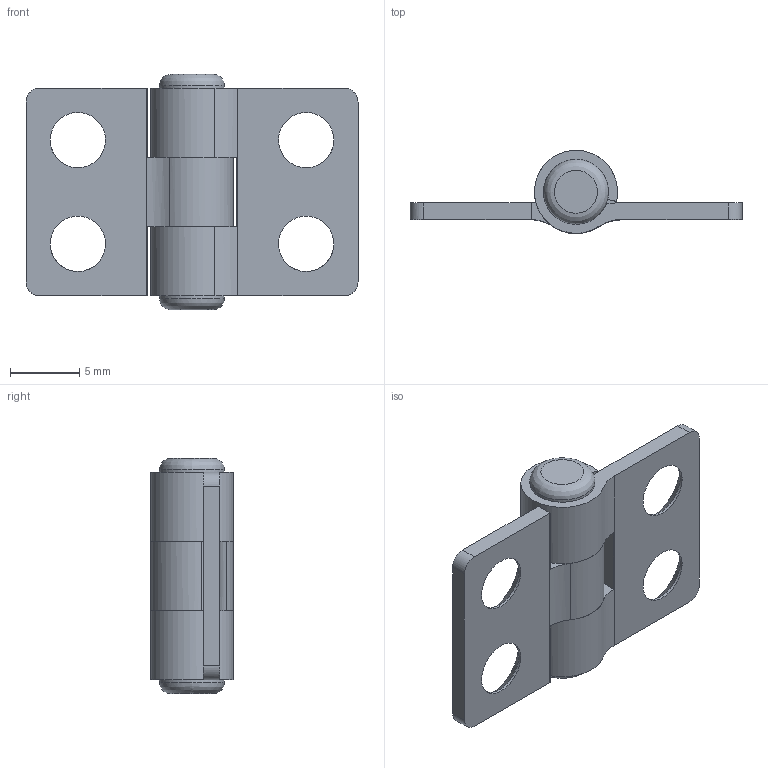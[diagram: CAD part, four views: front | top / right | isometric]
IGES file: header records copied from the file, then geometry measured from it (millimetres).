
Global section: file name: DR_HD1524-12; native system: Autodesk Inventor 2015; preprocessor: unknown; author: user; date: 20170810.142116; units: millimetre
Bounding box: 24 x 6 x 17 mm (x, y, z)
Volume: 685.5 mm3; surface area: 1379.9 mm2
Topology: 3 solids, 3 shells, 52 faces, 144 edges, 100 vertices
Faces by surface type: bspline 52
